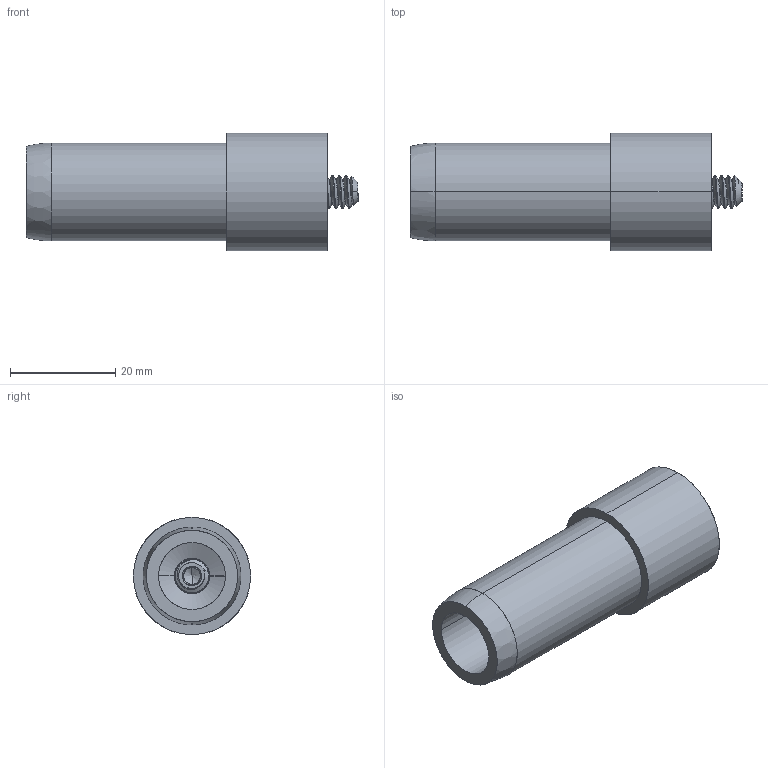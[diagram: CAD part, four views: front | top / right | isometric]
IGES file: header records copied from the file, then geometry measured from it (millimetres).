
Start section: SolidWorks IGES file using analytic representation for surfaces
Global section: file name: \\SERVER3\Design\_New Design Drive Folder List\_Design Vault\AAI\Modular Round Tube Connectors\Solidworks Models\STP Files\12202013\0.750 Inch Modular Connectors\Parts\Camera Mount for 0.75 Inch tube.IGS; native system: SolidWorks 2013; preprocessor: SolidWorks 2013; author: tbraun; date: 140108.163957; units: inch
Bounding box: 62.99 x 22.23 x 22.23 mm (x, y, z)
Surface area: 7588.6 mm2 (no closed solid volume)
Topology: 0 solids, 0 shells, 84 faces, 1229 edges, 1227 vertices
Faces by surface type: revolution 52, bspline 32
